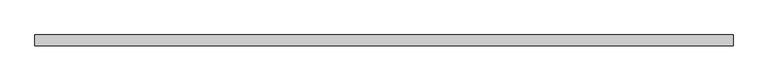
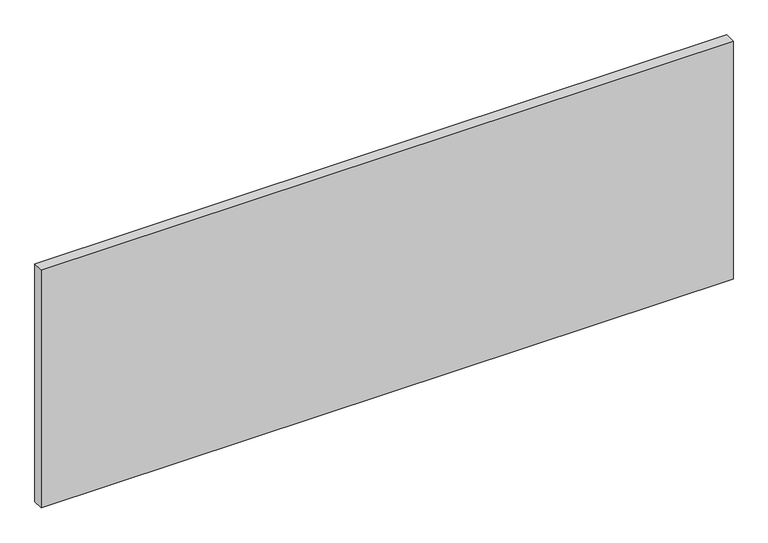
"""IFC4 building model written with IfcOpenShell, lengths in millimetres: proxy geometry, BASYS^OFFICE 7_RETURN HAT-WORKSURFACE."""

from ifc_helpers import new_model, si_unit, frame, origin, place, context, project, spatial, polyline, outline, extrude, source, transform, mapped, element, save


def generic_models_f6abea88(model_context):
    return source(origin(), model_context, "Body", "SweptSolid", [
        extrude(outline(polyline([(1816.1, 0.0), (0.0, 0.0), (0.0, 28.575), (1816.1, 28.575), (1816.1, 0.0)])), frame((0.0, 0.0, -660.4), z_axis=(0.0, 0.0, 1.0), x_axis=(1.0, 0.0, 0.0)), (0.0, 0.0, 1.0), 660.4),
    ])


if __name__ == "__main__":
    model = new_model("IFC4")
    model_context = context("Model", 3, world=origin())
    ifc_project = project(units=[si_unit("LENGTHUNIT", "METRE", prefix="MILLI")], contexts=[model_context])
    site = spatial("IfcSite", under=ifc_project)
    building = spatial("IfcBuilding", under=site)
    placement = place(None, origin())
    generic_models_shape = generic_models_f6abea88(model_context)
    element("IfcBuildingElementProxy", 1, Name="BASYS^OFFICE 7_RETURN HAT-WORKSURFACE", ObjectType="BASYS^OFFICE 7_RETURN HAT-WORKSURFACE", at=placement, inside=building, context=model_context, shape_type="MappedRepresentation", body=[
        mapped(generic_models_shape, transform((0.0, 0.0, 0.0), x_axis=(1.0, 0.0, 0.0), y_axis=(0.0, 1.0, 0.0), z_axis=(0.0, 0.0, 1.0))),
    ])
    save(model, "model.ifc")
